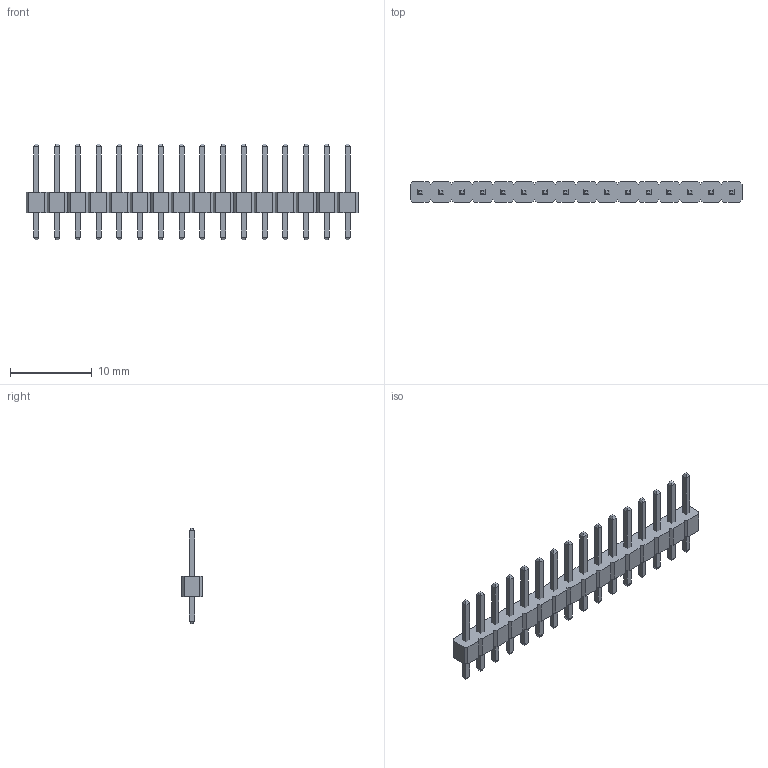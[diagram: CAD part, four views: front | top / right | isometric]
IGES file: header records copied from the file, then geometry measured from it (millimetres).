
Start section: Data from Parasolid IGES Translator 23.1.110, Copyright(c) 2006 Siemens PLM Software. All Rights Reserved.
Global section: file name: 5f3dd6ae933f190f816bcb7e.iges; native system: By Siemens PLM Incorporated; preprocessor: XPlus GENERIC/IGES 23.1.110; author: Noname; organization: Noname; date: 20200820.014935; units: metre
Bounding box: 40.64 x 2.54 x 11.68 mm (x, y, z)
Surface area: 924.4 mm2 (no closed solid volume)
Topology: 0 solids, 0 shells, 420 faces, 1868 edges, 1868 vertices
Faces by surface type: extrusion 420
